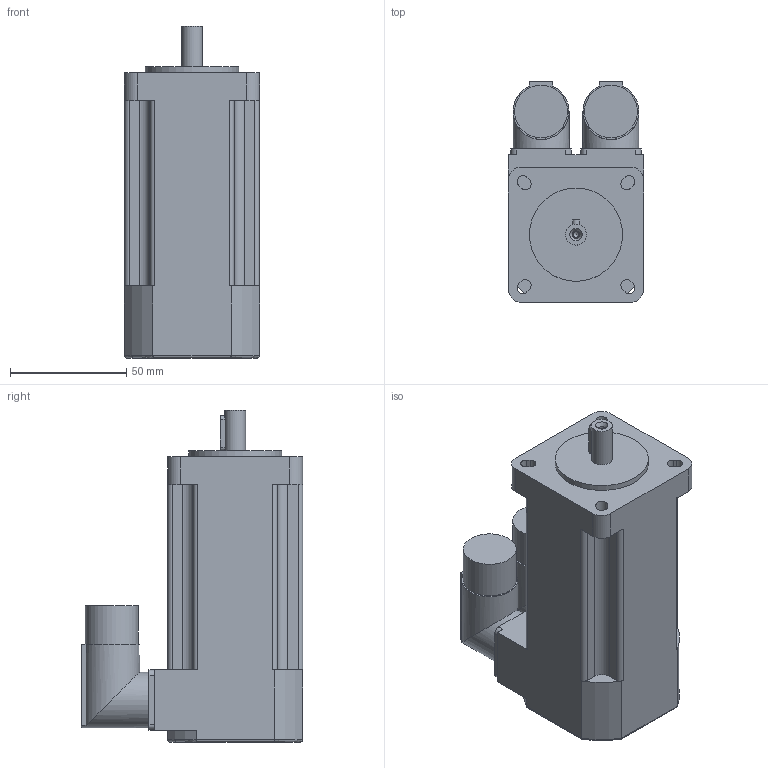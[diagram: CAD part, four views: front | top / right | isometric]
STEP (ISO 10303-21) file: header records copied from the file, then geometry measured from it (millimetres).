
FILE_DESCRIPTION(/* description */ (''),/* implementation_level */ '2;1');
FILE_NAME(/* name */ 'C:\Users\Pastrello_Ylenia\Desktop\Modelli 3D Serad\B28Q\Resolver\Resolver NoBrake\B2801Qxx6A052000.stp',/* time_stamp */ '2015-06-10T17:09:56+02:00',/* author */ ('Pastrello_Ylenia'),/* organization */ (''),/* preprocessor_version */ 'ST-DEVELOPER v15.6',/* originating_system */ 'Autodesk Inventor 2015',/* authorisation */ '');
FILE_SCHEMA (('AUTOMOTIVE_DESIGN { 1 0 10303 214 3 1 1 }'));
Length unit declared in the file: millimetre
Products named in the file (1): B2801Qxx6A052000
Bounding box: 58 x 95 x 142.5 mm (x, y, z)
Volume: 433898 mm3; surface area: 46150.1 mm2
Topology: 1 solids, 1 shells, 140 faces, 374 edges, 243 vertices
Faces by surface type: plane 72, cylinder 62, torus 4, cone 2
Full cylindrical faces by diameter (mm): 2.5 x1, 3.2 x1, 9 x1, 22.7 x2, 24 x2, 40 x1
Entity records: 4441 total; most frequent: CARTESIAN_POINT 879, DIRECTION 757, ORIENTED_EDGE 722, EDGE_CURVE 360, AXIS2_PLACEMENT_3D 268, VERTEX_POINT 240, LINE 221, VECTOR 221
